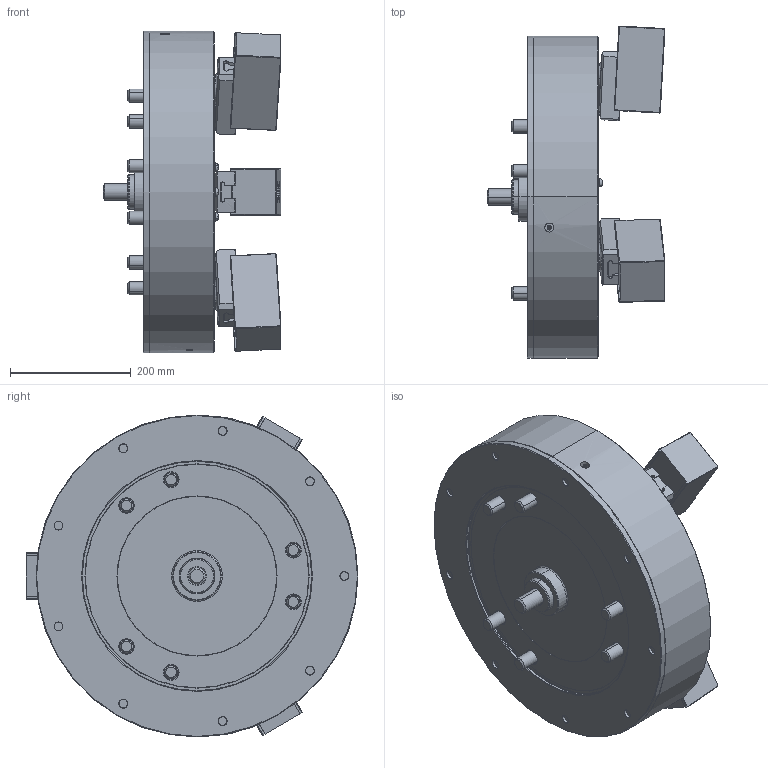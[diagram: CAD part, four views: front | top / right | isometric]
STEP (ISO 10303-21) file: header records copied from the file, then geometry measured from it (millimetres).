
FILE_DESCRIPTION (( 'STEP AP214' ), '1' );
FILE_NAME ('PW-21_UC_ID.STEP', '2023-08-02T06:59:21', ( '' ), ( '' ), 'SwSTEP 2.0', 'SolidWorks 2020', '' );
FILE_SCHEMA (( 'AUTOMOTIVE_DESIGN' ));
Length unit declared in the file: millimetre
Products named in the file (5): PW-21_UC_ID; Part5^61P118462_dummy_ID; 61P422878; PW-21_61P326096_ソフトジョー; 0030120030
Assembly tree (13 placements, depth 2):
  PW-21_UC_ID
    PW-21_61P326096_ソフトジョー  x3
    61P422878  x3
    0030120030  x6
    Part5^61P118462_dummy_ID
Bounding box: 294.68 x 549.57 x 533 mm (x, y, z)
Volume: 28468331.4 mm3; surface area: 1165785.5 mm2
Topology: 13 solids, 17 shells, 3195 faces, 8228 edges, 5332 vertices
Faces by surface type: plane 1878, bspline 584, cone 374, cylinder 317, torus 34, sphere 8
Entity records: 112628 total; most frequent: CARTESIAN_POINT 44185, ORIENTED_EDGE 15288, DIRECTION 11698, EDGE_CURVE 7644, LINE 5114, VECTOR 5114, VERTEX_POINT 4989, AXIS2_PLACEMENT_3D 3292
